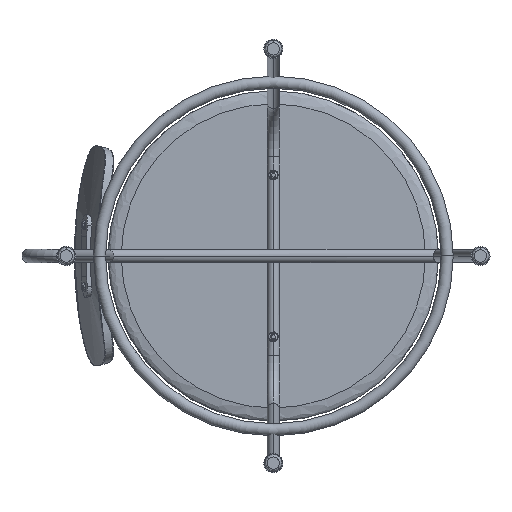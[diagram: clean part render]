
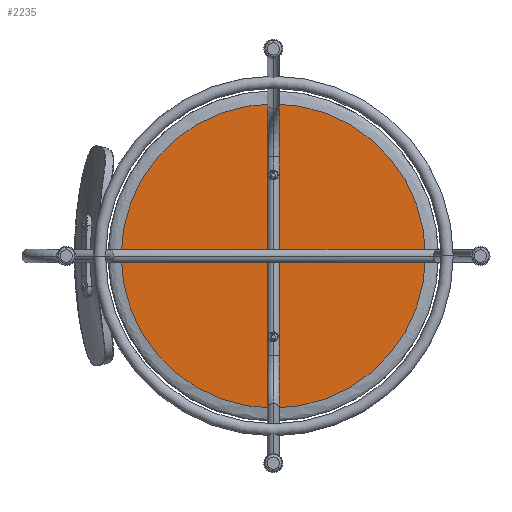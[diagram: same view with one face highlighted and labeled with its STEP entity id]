
A CAD part, front view. The second image highlights one B-rep face of the part: STEP entity #2235.
In plain terms, the highlighted planar face has unit normal (0, -1, 0).
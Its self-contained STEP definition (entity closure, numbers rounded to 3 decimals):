
#44 = PLANE ( 'NONE',  #25018 ) ;
#48 = CARTESIAN_POINT ( 'NONE',  ( -64.047, 270.536, 881.439 ) ) ;
#388 = DIRECTION ( 'NONE',  ( 0., -1., 0. ) ) ;
#452 = DIRECTION ( 'NONE',  ( 0., -1., 0. ) ) ;
#720 = EDGE_CURVE ( 'NONE', #16030, #3295, #23579, .T. ) ;
#1054 = ORIENTED_EDGE ( 'NONE', *, *, #720, .F. ) ;
#1433 = EDGE_LOOP ( 'NONE', ( #25379, #8981 ) ) ;
#1825 = DIRECTION ( 'NONE',  ( 1., 0., 0. ) ) ;
#1886 = CARTESIAN_POINT ( 'NONE',  ( 105.753, 270.536, 974.439 ) ) ;
#2012 = FACE_BOUND ( 'NONE', #1433, .T. ) ;
#2153 = VERTEX_POINT ( 'NONE', #20502 ) ;
#2235 = ADVANCED_FACE ( 'NONE', ( #19981, #8158, #2012, #10397, #16162 ), #44, .F. ) ;
#2371 = CIRCLE ( 'NONE', #15370, 5.2 ) ;
#2411 = CARTESIAN_POINT ( 'NONE',  ( -69.247, 270.536, 974.439 ) ) ;
#2444 = DIRECTION ( 'NONE',  ( 1., 0., 0. ) ) ;
#2497 = AXIS2_PLACEMENT_3D ( 'NONE', #18664, #10280, #10545 ) ;
#3175 = EDGE_CURVE ( 'NONE', #6861, #23447, #15700, .T. ) ;
#3295 = VERTEX_POINT ( 'NONE', #18070 ) ;
#3334 = VERTEX_POINT ( 'NONE', #11668 ) ;
#4156 = EDGE_CURVE ( 'NONE', #8990, #2153, #23032, .T. ) ;
#4952 = CIRCLE ( 'NONE', #24238, 5.2 ) ;
#5637 = DIRECTION ( 'NONE',  ( 1., 0., 0. ) ) ;
#6202 = CARTESIAN_POINT ( 'NONE',  ( -69.247, 270.536, 974.439 ) ) ;
#6677 = DIRECTION ( 'NONE',  ( 0., -1., 0. ) ) ;
#6861 = VERTEX_POINT ( 'NONE', #20512 ) ;
#6955 = CARTESIAN_POINT ( 'NONE',  ( -69.247, 270.536, 1067.439 ) ) ;
#7196 = CIRCLE ( 'NONE', #22711, 5.2 ) ;
#8031 = DIRECTION ( 'NONE',  ( 0., 1., 0. ) ) ;
#8158 = FACE_BOUND ( 'NONE', #17226, .T. ) ;
#8470 = CARTESIAN_POINT ( 'NONE',  ( 23.753, 270.536, 974.439 ) ) ;
#8562 = DIRECTION ( 'NONE',  ( 1., 0., 0. ) ) ;
#8688 = DIRECTION ( 'NONE',  ( 1., 0., 0. ) ) ;
#8981 = ORIENTED_EDGE ( 'NONE', *, *, #19075, .F. ) ;
#8990 = VERTEX_POINT ( 'NONE', #21915 ) ;
#9817 = CARTESIAN_POINT ( 'NONE',  ( -69.247, 270.536, 881.439 ) ) ;
#9820 = CARTESIAN_POINT ( 'NONE',  ( -69.247, 270.536, 881.439 ) ) ;
#10280 = DIRECTION ( 'NONE',  ( 0., -1., 0. ) ) ;
#10397 = FACE_BOUND ( 'NONE', #13938, .T. ) ;
#10545 = DIRECTION ( 'NONE',  ( 1., 0., 0. ) ) ;
#10553 = ORIENTED_EDGE ( 'NONE', *, *, #15134, .T. ) ;
#11665 = ORIENTED_EDGE ( 'NONE', *, *, #21417, .F. ) ;
#11668 = CARTESIAN_POINT ( 'NONE',  ( -244.247, 270.536, 974.439 ) ) ;
#12713 = CARTESIAN_POINT ( 'NONE',  ( -162.247, 270.536, 974.439 ) ) ;
#13084 = AXIS2_PLACEMENT_3D ( 'NONE', #8470, #20547, #2444 ) ;
#13341 = ORIENTED_EDGE ( 'NONE', *, *, #4156, .F. ) ;
#13831 = CARTESIAN_POINT ( 'NONE',  ( 28.953, 270.536, 974.439 ) ) ;
#13938 = EDGE_LOOP ( 'NONE', ( #13341, #11665 ) ) ;
#13943 = EDGE_CURVE ( 'NONE', #25965, #22405, #21858, .T. ) ;
#14309 = CIRCLE ( 'NONE', #17672, 175. ) ;
#14420 = CARTESIAN_POINT ( 'NONE',  ( -69.247, 270.536, 974.439 ) ) ;
#15134 = EDGE_CURVE ( 'NONE', #23449, #3334, #14309, .T. ) ;
#15140 = AXIS2_PLACEMENT_3D ( 'NONE', #20514, #20894, #8688 ) ;
#15370 = AXIS2_PLACEMENT_3D ( 'NONE', #6955, #22853, #19170 ) ;
#15601 = AXIS2_PLACEMENT_3D ( 'NONE', #12713, #6677, #22443 ) ;
#15700 = CIRCLE ( 'NONE', #24523, 5.2 ) ;
#16030 = VERTEX_POINT ( 'NONE', #22918 ) ;
#16041 = DIRECTION ( 'NONE',  ( -1., 0., 0. ) ) ;
#16162 = FACE_OUTER_BOUND ( 'NONE', #20710, .T. ) ;
#16431 = CIRCLE ( 'NONE', #13084, 5.2 ) ;
#16814 = EDGE_LOOP ( 'NONE', ( #1054, #21307 ) ) ;
#17226 = EDGE_LOOP ( 'NONE', ( #23304, #25020 ) ) ;
#17310 = CARTESIAN_POINT ( 'NONE',  ( -162.247, 270.536, 974.439 ) ) ;
#17672 = AXIS2_PLACEMENT_3D ( 'NONE', #14420, #388, #20455 ) ;
#17815 = DIRECTION ( 'NONE',  ( 0., -1., 0. ) ) ;
#18070 = CARTESIAN_POINT ( 'NONE',  ( -167.447, 270.536, 974.439 ) ) ;
#18511 = EDGE_CURVE ( 'NONE', #3295, #16030, #7196, .T. ) ;
#18664 = CARTESIAN_POINT ( 'NONE',  ( -69.247, 270.536, 1067.439 ) ) ;
#19075 = EDGE_CURVE ( 'NONE', #22405, #25965, #16431, .T. ) ;
#19094 = CIRCLE ( 'NONE', #24970, 175. ) ;
#19170 = DIRECTION ( 'NONE',  ( 1., 0., 0. ) ) ;
#19403 = EDGE_CURVE ( 'NONE', #3334, #23449, #19094, .T. ) ;
#19981 = FACE_BOUND ( 'NONE', #16814, .T. ) ;
#20455 = DIRECTION ( 'NONE',  ( 1., 0., 0. ) ) ;
#20502 = CARTESIAN_POINT ( 'NONE',  ( -74.447, 270.536, 1067.439 ) ) ;
#20512 = CARTESIAN_POINT ( 'NONE',  ( -74.447, 270.536, 881.439 ) ) ;
#20514 = CARTESIAN_POINT ( 'NONE',  ( 23.753, 270.536, 974.439 ) ) ;
#20547 = DIRECTION ( 'NONE',  ( 0., -1., 0. ) ) ;
#20710 = EDGE_LOOP ( 'NONE', ( #21732, #10553 ) ) ;
#20894 = DIRECTION ( 'NONE',  ( 0., -1., 0. ) ) ;
#21307 = ORIENTED_EDGE ( 'NONE', *, *, #18511, .F. ) ;
#21417 = EDGE_CURVE ( 'NONE', #2153, #8990, #2371, .T. ) ;
#21732 = ORIENTED_EDGE ( 'NONE', *, *, #19403, .T. ) ;
#21858 = CIRCLE ( 'NONE', #15140, 5.2 ) ;
#21915 = CARTESIAN_POINT ( 'NONE',  ( -64.047, 270.536, 1067.439 ) ) ;
#22154 = DIRECTION ( 'NONE',  ( 0., -1., 0. ) ) ;
#22405 = VERTEX_POINT ( 'NONE', #25494 ) ;
#22443 = DIRECTION ( 'NONE',  ( 1., 0., 0. ) ) ;
#22711 = AXIS2_PLACEMENT_3D ( 'NONE', #17310, #25594, #5637 ) ;
#22853 = DIRECTION ( 'NONE',  ( 0., -1., 0. ) ) ;
#22878 = EDGE_CURVE ( 'NONE', #23447, #6861, #4952, .T. ) ;
#22918 = CARTESIAN_POINT ( 'NONE',  ( -157.047, 270.536, 974.439 ) ) ;
#23032 = CIRCLE ( 'NONE', #2497, 5.2 ) ;
#23304 = ORIENTED_EDGE ( 'NONE', *, *, #22878, .F. ) ;
#23447 = VERTEX_POINT ( 'NONE', #48 ) ;
#23449 = VERTEX_POINT ( 'NONE', #1886 ) ;
#23579 = CIRCLE ( 'NONE', #15601, 5.2 ) ;
#24238 = AXIS2_PLACEMENT_3D ( 'NONE', #9817, #17815, #25837 ) ;
#24523 = AXIS2_PLACEMENT_3D ( 'NONE', #9820, #22154, #1825 ) ;
#24970 = AXIS2_PLACEMENT_3D ( 'NONE', #2411, #452, #8562 ) ;
#25018 = AXIS2_PLACEMENT_3D ( 'NONE', #6202, #8031, #16041 ) ;
#25020 = ORIENTED_EDGE ( 'NONE', *, *, #3175, .F. ) ;
#25379 = ORIENTED_EDGE ( 'NONE', *, *, #13943, .F. ) ;
#25494 = CARTESIAN_POINT ( 'NONE',  ( 18.553, 270.536, 974.439 ) ) ;
#25594 = DIRECTION ( 'NONE',  ( 0., -1., 0. ) ) ;
#25837 = DIRECTION ( 'NONE',  ( 1., 0., 0. ) ) ;
#25965 = VERTEX_POINT ( 'NONE', #13831 ) ;
